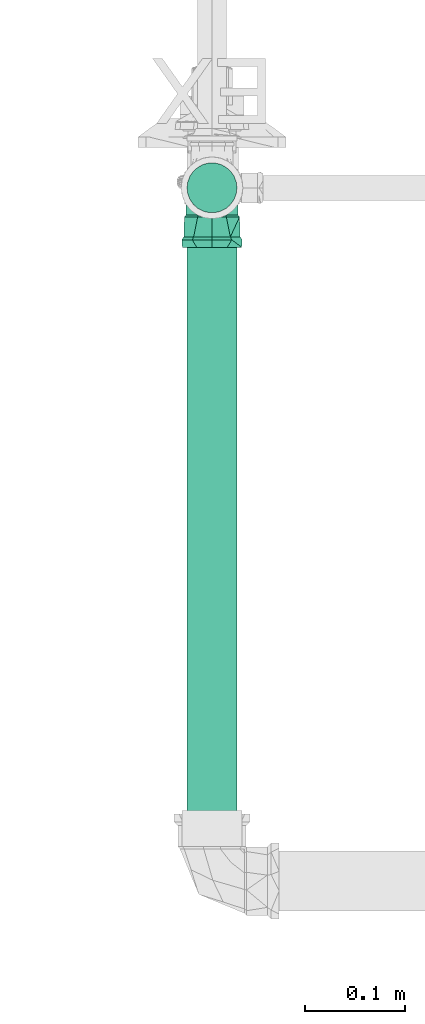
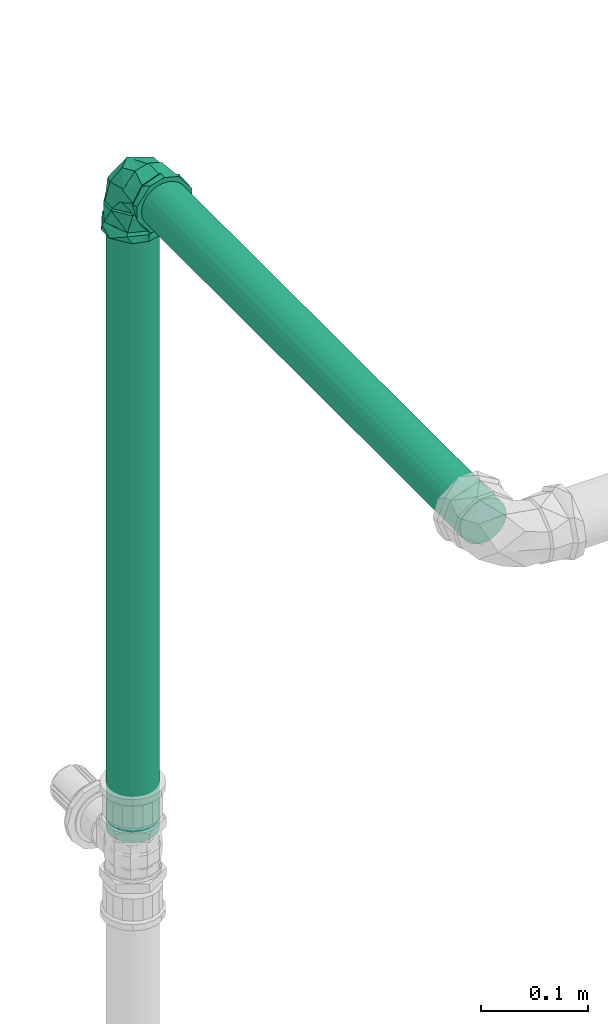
# One storey, part 242 of 589: 2 flow segments, 1 flow fitting.
"""IFC2X3 building model written with IfcOpenShell, lengths in millimetres."""

from ifc_helpers import new_model, entity, si_unit, converted_unit, derived_unit, direction, frame, frame_2d, origin, place, context, subcontext, project, spatial, circle, extrude, faceted_brep, source, transform, mapped, material, type_object, type_shapes, element, save


model = new_model("IFC2X3")

# Units and contexts
model_context = context("Model", 3, precision=0.01, world=origin(), true_north=direction((6.123031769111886e-17, 1.0)))
body_context = subcontext(model_context, "Body", "Model", "MODEL_VIEW")
ifc_project = project(units=[si_unit("LENGTHUNIT", "METRE", prefix="MILLI"), si_unit("AREAUNIT", "SQUARE_METRE"), si_unit("VOLUMEUNIT", "CUBIC_METRE"), converted_unit("PLANEANGLEUNIT", "DEGREE", entity("IfcRatioMeasure", 0.017453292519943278), si_unit("PLANEANGLEUNIT", "RADIAN"), dimensions=[0, 0, 0, 0, 0, 0, 0]), si_unit("MASSUNIT", "GRAM", prefix="KILO"), derived_unit("MASSDENSITYUNIT", [(si_unit("MASSUNIT", "GRAM", prefix="KILO"), 1), (si_unit("LENGTHUNIT", "METRE"), -3)]), derived_unit("IONCONCENTRATIONUNIT", [(si_unit("MASSUNIT", "GRAM", prefix="KILO"), 1), (si_unit("LENGTHUNIT", "METRE"), -3)]), derived_unit("MOMENTOFINERTIAUNIT", [(si_unit("LENGTHUNIT", "METRE"), 4)]), si_unit("TIMEUNIT", "SECOND"), si_unit("FREQUENCYUNIT", "HERTZ"), si_unit("THERMODYNAMICTEMPERATUREUNIT", "DEGREE_CELSIUS"), derived_unit("THERMALTRANSMITTANCEUNIT", [(si_unit("MASSUNIT", "GRAM", prefix="KILO"), 1), (si_unit("THERMODYNAMICTEMPERATUREUNIT", "KELVIN"), -1), (si_unit("TIMEUNIT", "SECOND"), -3)]), derived_unit("THERMALCONDUCTANCEUNIT", [(si_unit("MASSUNIT", "GRAM", prefix="KILO"), 1), (si_unit("THERMODYNAMICTEMPERATUREUNIT", "KELVIN"), -1), (si_unit("TIMEUNIT", "SECOND"), -3), (si_unit("LENGTHUNIT", "METRE"), 1)]), derived_unit("VOLUMETRICFLOWRATEUNIT", [(si_unit("LENGTHUNIT", "METRE"), 3), (si_unit("TIMEUNIT", "SECOND"), -1)]), derived_unit("MASSFLOWRATEUNIT", [(si_unit("MASSUNIT", "GRAM", prefix="KILO"), 1), (si_unit("TIMEUNIT", "SECOND"), -1)]), derived_unit("ROTATIONALFREQUENCYUNIT", [(si_unit("TIMEUNIT", "SECOND"), -1)]), si_unit("ELECTRICCURRENTUNIT", "AMPERE"), si_unit("ELECTRICVOLTAGEUNIT", "VOLT"), si_unit("POWERUNIT", "WATT"), si_unit("FORCEUNIT", "NEWTON", prefix="KILO"), si_unit("ILLUMINANCEUNIT", "LUX"), si_unit("LUMINOUSFLUXUNIT", "LUMEN"), si_unit("LUMINOUSINTENSITYUNIT", "CANDELA"), derived_unit("USERDEFINED", [(si_unit("MASSUNIT", "GRAM", prefix="KILO"), -1), (si_unit("LENGTHUNIT", "METRE"), -2), (si_unit("TIMEUNIT", "SECOND"), 3), (si_unit("LUMINOUSFLUXUNIT", "LUMEN"), 1)]), derived_unit("USERDEFINED", [(si_unit("MASSUNIT", "GRAM", prefix="KILO"), 1), (si_unit("TIMEUNIT", "SECOND"), -3), (si_unit("LENGTHUNIT", "METRE"), 3), (si_unit("ELECTRICCURRENTUNIT", "AMPERE"), -2)]), derived_unit("SOUNDPOWERUNIT", [(si_unit("MASSUNIT", "GRAM", prefix="KILO"), 1), (si_unit("TIMEUNIT", "SECOND"), -3), (si_unit("LENGTHUNIT", "METRE"), 2)]), derived_unit("SOUNDPRESSUREUNIT", [(si_unit("MASSUNIT", "GRAM", prefix="KILO"), 1), (si_unit("LENGTHUNIT", "METRE"), -1), (si_unit("TIMEUNIT", "SECOND"), -2)]), derived_unit("LINEARVELOCITYUNIT", [(si_unit("LENGTHUNIT", "METRE"), 1), (si_unit("TIMEUNIT", "SECOND"), -1)]), si_unit("PRESSUREUNIT", "PASCAL"), derived_unit("USERDEFINED", [(si_unit("MASSUNIT", "GRAM", prefix="KILO"), 1), (si_unit("LENGTHUNIT", "METRE"), -2), (si_unit("TIMEUNIT", "SECOND"), -2)]), derived_unit("LINEARFORCEUNIT", [(si_unit("MASSUNIT", "GRAM", prefix="KILO"), 1), (si_unit("TIMEUNIT", "SECOND"), -2)]), derived_unit("PLANARFORCEUNIT", [(si_unit("MASSUNIT", "GRAM", prefix="KILO"), 1), (si_unit("LENGTHUNIT", "METRE"), -1), (si_unit("TIMEUNIT", "SECOND"), -2)]), derived_unit("SPECIFICHEATCAPACITYUNIT", [(si_unit("THERMODYNAMICTEMPERATUREUNIT", "KELVIN"), -1), (si_unit("LENGTHUNIT", "METRE"), 2), (si_unit("TIMEUNIT", "SECOND"), -2)]), derived_unit("HEATINGVALUEUNIT", [(si_unit("LENGTHUNIT", "METRE"), 2), (si_unit("TIMEUNIT", "SECOND"), -2)]), derived_unit("VAPORPERMEABILITYUNIT", [(si_unit("LENGTHUNIT", "METRE"), -1), (si_unit("TIMEUNIT", "SECOND"), 1)]), derived_unit("DYNAMICVISCOSITYUNIT", [(si_unit("MASSUNIT", "GRAM", prefix="KILO"), 1), (si_unit("TIMEUNIT", "SECOND"), -1), (si_unit("LENGTHUNIT", "METRE"), -1)]), derived_unit("THERMALEXPANSIONCOEFFICIENTUNIT", [(si_unit("THERMODYNAMICTEMPERATUREUNIT", "KELVIN"), -1)]), derived_unit("MODULUSOFELASTICITYUNIT", [(si_unit("MASSUNIT", "GRAM", prefix="KILO"), 1), (si_unit("LENGTHUNIT", "METRE"), -1), (si_unit("TIMEUNIT", "SECOND"), -2)]), derived_unit("ISOTHERMALMOISTURECAPACITYUNIT", [(si_unit("LENGTHUNIT", "METRE"), 3), (si_unit("MASSUNIT", "GRAM", prefix="KILO"), -1)]), derived_unit("MOISTUREDIFFUSIVITYUNIT", [(si_unit("TIMEUNIT", "SECOND"), -1), (si_unit("LENGTHUNIT", "METRE"), 2)])], contexts=[model_context])

# Site, building, storey
site_placement = place(None, origin())
site = spatial("IfcSite", under=ifc_project, at=site_placement, Name="Default", CompositionType="ELEMENT")
building_placement = place(site_placement, origin())
building = spatial("IfcBuilding", under=site, at=building_placement, CompositionType="ELEMENT")
storey_placement = place(building_placement, frame((0.0, 0.0, 100.0)))
storey = spatial("IfcBuildingStorey", under=building, at=storey_placement, Name="TÉRREO", CompositionType="ELEMENT", Elevation=100.0)

# Flow segments
pipe_segment_type = type_object("IfcPipeSegmentType", Name="Tipos de tubos:PVC Marrom Soldável", PredefinedType="NOTDEFINED")
flow_segment_1_placement = place(storey_placement, origin())
element("IfcFlowSegment", 1, at=flow_segment_1_placement, inside=storey, type_object=pipe_segment_type, Name="Tipos de tubos:PVC Marrom Soldável", ObjectType="Tipos de tubos:PVC Marrom Soldável", context=body_context, shape_type="SweptSolid", body=[
    extrude(circle(Radius=25.0, at=frame_2d((1.6919798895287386e-14, 0.0), x_axis=(1.0, 0.0))), frame((-87.78535366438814, 2462.7075575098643, 2970.0), z_axis=(0.0, 1.0, 0.0), x_axis=(-1.0, 0.0, 0.0)), (0.0, 0.0, 1.0), 627.4072050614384),
])
flow_segment_2_placement = place(storey_placement, origin())
element("IfcFlowSegment", 2, at=flow_segment_2_placement, inside=storey, type_object=pipe_segment_type, Name="Tipos de tubos:PVC Marrom Soldável", ObjectType="Tipos de tubos:PVC Marrom Soldável", context=body_context, shape_type="SweptSolid", body=[
    extrude(circle(Radius=25.0, at=frame_2d((6.767919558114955e-14, 0.0), x_axis=(1.0, 0.0))), frame((-87.78535366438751, 3119.214762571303, 2221.5), z_axis=(0.0, 0.0, 1.0), x_axis=(-1.0, 0.0, 0.0)), (0.0, 0.0, 1.0), 719.4000000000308),
])

# Flow fitting
ifc_material = material(Name="PVC Marrom")
pipe_fitting_type = type_object("IfcPipeFittingType", Name="PVC Marrom Soldável_Joelho 45°_90°_Rodrigo MEP:Joelho", PredefinedType="NOTDEFINED", material=ifc_material)
shared_shape = source(origin(), body_context, "Body", "Brep", [
    faceted_brep([(-28.650000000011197, 29.100000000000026, 0.0), (-24.811627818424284, 29.100000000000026, 14.324999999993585), (-16.11339673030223, 29.100000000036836, 20.999387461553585), (-7.415165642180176, 29.10000000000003, 27.673774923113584), (7.415165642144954, 29.100000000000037, 27.67377492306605), (16.113396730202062, 29.100000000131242, 20.99938746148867), (24.811627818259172, 29.100000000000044, 14.324999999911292), (28.649999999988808, 29.100000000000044, 0.0), (24.811627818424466, 29.100000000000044, -14.32500000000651), (16.113396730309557, 29.09999999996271, -20.99938746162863), (7.41516564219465, 29.100000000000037, -27.673774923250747), (-7.4151656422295, 29.10000000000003, -27.673774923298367), (-16.11339673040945, 29.099999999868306, -20.999387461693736), (-24.811627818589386, 29.100000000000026, -14.325000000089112), (7.026937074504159, 27.400000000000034, 26.2248861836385), (-7.026937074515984, 27.400000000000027, 26.224886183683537), (-15.269763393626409, 27.400000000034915, 19.899943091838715), (-23.512589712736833, 27.400000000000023, 13.574999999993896), (-27.150000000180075, 27.400000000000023, 0.0), (-23.512589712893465, 27.400000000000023, -13.575000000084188), (-15.269763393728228, 27.39999999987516, -19.899943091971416), (-7.02693707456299, 27.400000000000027, -26.224886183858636), (7.026937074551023, 27.400000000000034, -26.224886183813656), (15.269763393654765, 27.399999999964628, -19.899943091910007), (23.51258971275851, 27.40000000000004, -13.575000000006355), (27.149999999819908, 27.40000000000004, 0.0), (23.512589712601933, 27.40000000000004, 13.574999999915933), (15.269763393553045, 27.400000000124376, 19.899943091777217)], [[[0, 1, 2, 3, 4, 5, 6, 7, 8, 9, 10, 11, 12, 13]], [[14, 15, 16, 17, 18, 19, 20, 21, 22, 23, 24, 25, 26, 27]], [[8, 7, 25, 24]], [[10, 9, 8, 24, 23, 22]], [[20, 19, 13, 12, 11, 21]], [[22, 21, 11, 10]], [[0, 13, 19, 18]], [[1, 0, 18, 17]], [[3, 2, 1, 17, 16, 15]], [[27, 26, 6, 5, 4, 14]], [[15, 14, 4, 3]], [[7, 6, 26, 25]]]),
    faceted_brep([(-29.09999999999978, -28.650000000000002, 0.0), (-29.09999999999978, -24.811627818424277, 14.32500000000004), (-29.09999999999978, -16.113396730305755, 20.99938746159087), (-29.09999999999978, -7.415165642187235, 27.673774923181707), (-29.09999999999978, 7.415165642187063, 27.6737749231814), (-29.10000000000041, 16.113396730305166, 20.999387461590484), (-29.09999999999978, 24.81162781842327, 14.324999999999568), (-29.09999999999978, 28.649999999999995, 0.0), (-29.09999999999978, 24.811627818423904, -14.324999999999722), (-29.10000000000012, 16.11339673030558, -20.999387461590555), (-29.09999999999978, 7.415165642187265, -27.67377492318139), (-29.09999999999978, -7.415165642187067, -27.67377492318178), (-29.099999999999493, -16.113396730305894, -20.99938746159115), (-29.09999999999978, -24.81162781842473, -14.325000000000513), (-27.39999999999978, 23.512589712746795, 13.574999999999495), (-27.40000000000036, 15.269763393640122, 19.89994309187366), (-27.39999999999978, 7.026937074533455, 26.22488618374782), (-27.39999999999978, -7.02693707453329, 26.224886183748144), (-27.399999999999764, -15.269763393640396, 19.89994309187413), (-27.39999999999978, -23.512589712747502, 13.575000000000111), (-27.39999999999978, -27.150000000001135, 0.0), (-27.39999999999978, -23.51258971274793, -13.575000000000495), (-27.399999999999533, -15.269763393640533, -19.899943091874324), (-27.39999999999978, -7.026937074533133, -26.224886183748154), (-27.39999999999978, 7.026937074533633, -26.22488618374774), (-27.400000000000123, 15.269763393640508, -19.899943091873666), (-27.39999999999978, 23.512589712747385, -13.574999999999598), (-27.39999999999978, 27.149999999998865, 0.0)], [[[0, 1, 2, 3, 4, 5, 6, 7, 8, 9, 10, 11, 12, 13]], [[14, 15, 16, 17, 18, 19, 20, 21, 22, 23, 24, 25, 26, 27]], [[8, 7, 27, 26]], [[10, 9, 8, 26, 25, 24]], [[22, 21, 13, 12, 11, 23]], [[24, 23, 11, 10]], [[0, 13, 21, 20]], [[1, 0, 20, 19]], [[3, 2, 1, 19, 18, 17]], [[15, 14, 6, 5, 4, 16]], [[17, 16, 4, 3]], [[7, 6, 14, 27]]]),
    faceted_brep([(-59.59999999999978, -7.958685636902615, -29.702219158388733), (-59.59999999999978, 0.0, -25.0), (-59.59999999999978, 7.958685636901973, -29.702219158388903), (-59.59999999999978, -12.500000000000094, -21.650635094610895), (-59.59999999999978, -26.630281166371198, -15.375000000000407), (-59.59999999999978, -24.148145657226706, -6.4704761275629), (-59.59999999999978, -30.749999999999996, 0.0), (-59.59999999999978, -24.148145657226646, 6.470476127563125), (-59.59999999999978, -26.630281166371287, 15.37499999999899), (-59.59999999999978, -12.499999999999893, 21.65063509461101), (-59.59999999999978, -7.958685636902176, 29.702219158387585), (-59.59999999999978, 0.0, 25.0), (-59.59999999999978, 7.958685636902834, 29.70221915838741), (-59.59999999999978, 12.499999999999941, 21.650635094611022), (-59.59999999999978, 26.630281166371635, 15.374999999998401), (-59.59999999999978, 24.14814565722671, 6.470476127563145), (-59.59999999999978, 30.750000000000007, 0.0), (-59.59999999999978, 24.14814565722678, -6.470476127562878), (-59.59999999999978, 26.63028116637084, -15.375000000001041), (-59.59999999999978, 12.500000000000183, -21.65063509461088), (-52.09999999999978, 30.750000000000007, 0.0), (-52.10000000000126, 23.555335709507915, 19.76635170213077), (-52.100000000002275, 5.338054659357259, 30.28312520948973), (-52.10000000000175, -23.557724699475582, 19.763504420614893), (-52.09999999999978, -30.749999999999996, 0.0), (-52.10000000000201, -9.109835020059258, 25.023314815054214), (-52.09999999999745, -23.557724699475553, -19.76350442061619), (-52.09999999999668, -5.34171494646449, -30.28247977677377), (-52.09999999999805, 23.5553357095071, -19.766351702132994), (-52.09999999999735, 9.106810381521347, -25.02441573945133), (-49.10000000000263, 4.971874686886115, 28.21529659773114), (-49.09999999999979, -28.650000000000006, 0.0), (-49.100000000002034, -21.95076584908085, 18.41158273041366), (-49.10000000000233, -8.489445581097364, 23.3134396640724), (-49.100000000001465, 21.94614669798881, 18.417088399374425), (-49.0999999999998, 28.649999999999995, 0.0), (-49.09999999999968, 21.946146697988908, -18.41708839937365), (-49.09999999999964, 8.483597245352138, -23.31556846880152), (-49.09999999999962, -21.95076584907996, -18.411582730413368), (-49.099999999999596, -4.978952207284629, -28.214048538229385), (-29.09999999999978, -12.500000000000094, -21.650635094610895), (-29.09999999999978, -7.415165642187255, -27.6737749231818), (-29.09999999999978, 0.0, -25.0), (-29.09999999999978, -24.811627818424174, -14.324999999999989), (-29.09999999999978, -24.148145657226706, -6.4704761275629), (-29.09999999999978, -28.650000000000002, 0.0), (-29.09999999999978, -24.148145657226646, 6.470476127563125), (-29.09999999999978, -24.811627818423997, 14.3250000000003), (-29.09999999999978, -12.499999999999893, 21.65063509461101), (-29.09999999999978, -7.41516564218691, 27.67377492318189), (-29.09999999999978, 0.0, 25.0), (-29.09999999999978, 7.415165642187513, 27.67377492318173), (-29.09999999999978, 12.499999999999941, 21.650635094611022), (-29.09999999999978, 24.811627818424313, 14.32499999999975), (-29.09999999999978, 24.14814565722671, 6.470476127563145), (-29.09999999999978, 28.650000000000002, 0.0), (-29.09999999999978, 24.14814565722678, -6.470476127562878), (-29.09999999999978, 24.81162781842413, -14.325000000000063), (-29.09999999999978, 12.500000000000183, -21.65063509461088), (-29.09999999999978, 7.415165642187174, -27.67377492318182)], [[[0, 1, 2]], [[1, 0, 3]], [[4, 3, 0]], [[3, 4, 5]], [[5, 4, 6]], [[7, 5, 6]], [[7, 6, 8]], [[8, 9, 7]], [[8, 10, 9]], [[9, 10, 11]], [[12, 11, 10]], [[13, 11, 12]], [[13, 12, 14]], [[14, 15, 13]], [[15, 14, 16]], [[15, 16, 17]], [[18, 17, 16]], [[2, 19, 18]], [[17, 18, 19]], [[19, 2, 1]], [[16, 14, 20]], [[14, 21, 20]], [[21, 14, 12]], [[21, 12, 22]], [[23, 10, 8]], [[24, 8, 6]], [[10, 23, 25, 22]], [[23, 8, 24]], [[10, 22, 12]], [[6, 4, 24]], [[4, 26, 24]], [[26, 4, 0]], [[26, 0, 27]], [[28, 2, 18]], [[20, 18, 16]], [[2, 28, 29, 27]], [[28, 18, 20]], [[2, 27, 0]], [[25, 30, 22]], [[31, 32, 24]], [[24, 32, 23]], [[23, 33, 25]], [[34, 35, 21]], [[23, 32, 33]], [[21, 22, 34]], [[20, 21, 35]], [[30, 25, 33]], [[34, 22, 30]], [[35, 36, 28]], [[28, 20, 35]], [[36, 29, 28]], [[36, 37, 29]], [[37, 27, 29]], [[38, 31, 24]], [[38, 26, 39]], [[26, 38, 24]], [[27, 37, 39]], [[39, 26, 27]], [[40, 41, 42]], [[43, 41, 40]], [[40, 44, 43]], [[44, 45, 43]], [[46, 45, 44]], [[45, 46, 47]], [[48, 47, 46]], [[47, 48, 49]], [[50, 49, 48]], [[51, 49, 50]], [[52, 51, 50]], [[51, 52, 53]], [[54, 53, 52]], [[53, 54, 55]], [[55, 54, 56]], [[55, 56, 57]], [[57, 56, 58]], [[58, 42, 59]], [[59, 57, 58]], [[41, 59, 42]], [[35, 34, 53]], [[35, 53, 55]], [[53, 34, 51]], [[34, 30, 51]], [[49, 30, 33, 32]], [[47, 32, 31]], [[32, 47, 49]], [[47, 31, 45]], [[30, 49, 51]], [[31, 38, 43]], [[31, 43, 45]], [[43, 38, 41]], [[38, 39, 41]], [[59, 39, 37, 36]], [[57, 36, 35]], [[36, 57, 59]], [[57, 35, 55]], [[39, 59, 41]], [[9, 11, 50, 48]], [[7, 9, 48, 46]], [[46, 44, 5, 7]], [[3, 5, 44, 40]], [[1, 3, 40, 42]], [[19, 1, 42, 58]], [[17, 19, 58, 56]], [[56, 54, 15, 17]], [[13, 15, 54, 52]], [[11, 13, 52, 50]]]),
    faceted_brep([(-27.39999999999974, 7.026937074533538, -26.224886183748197), (-27.399999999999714, -7.026937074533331, -26.224886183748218), (-27.399999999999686, -23.51258971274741, -13.575000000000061), (-27.399999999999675, -27.149999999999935, 0.0), (-27.399999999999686, -23.512589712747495, 13.574999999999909), (-27.399999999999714, -7.026937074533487, 26.224886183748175), (-27.39999999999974, 7.026937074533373, 26.22488618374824), (-27.399999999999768, 23.512589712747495, 13.57500000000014), (-27.39999999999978, 27.150000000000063, 0.0), (-27.399999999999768, 23.51258971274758, -13.574999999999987), (-7.026937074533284, 27.399999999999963, -26.224886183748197), (-23.512589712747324, 27.40000000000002, -13.574999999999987), (-27.14999999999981, 27.40000000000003, 0.0), (-23.51258971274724, 27.40000000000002, 13.57500000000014), (-7.026937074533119, 27.399999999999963, 26.22488618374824), (7.026937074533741, 27.39999999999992, 26.224886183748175), (23.512589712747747, 27.399999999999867, 13.574999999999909), (27.15000000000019, 27.399999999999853, 0.0), (23.512589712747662, 27.399999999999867, -13.575000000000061), (7.026937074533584, 27.39999999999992, -26.224886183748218), (-0.7421356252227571, 0.7421330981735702, 25.120395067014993), (-9.561084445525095, -17.668940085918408, 17.12121907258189), (-2.9564114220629, -17.02513409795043, 0.0), (11.17267491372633, -11.172674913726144, 0.0), (17.668938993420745, 9.561081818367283, 17.12121913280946), (-27.22322330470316, 27.223223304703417, 0.0), (-15.959081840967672, 15.95908155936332, 24.723104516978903), (17.025133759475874, 2.956410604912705, 0.0), (-9.561084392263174, -17.668940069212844, -17.12121906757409), (-15.959081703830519, 15.9590814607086, -24.723104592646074), (-0.7421353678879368, 0.7421331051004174, -25.120394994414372), (17.668938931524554, 9.561081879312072, -17.121219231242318)], [[[0, 1, 2, 3, 4, 5, 6, 7, 8, 9]], [[10, 11, 12, 13, 14, 15, 16, 17, 18, 19]], [[5, 20, 6]], [[21, 4, 22]], [[23, 21, 22]], [[15, 20, 24]], [[21, 5, 4]], [[25, 7, 13]], [[23, 24, 20]], [[25, 8, 7]], [[7, 6, 26]], [[4, 3, 22]], [[20, 21, 23]], [[27, 17, 16]], [[20, 26, 6]], [[20, 5, 21]], [[24, 27, 16]], [[7, 26, 13]], [[25, 13, 12]], [[24, 16, 15]], [[20, 14, 26]], [[14, 13, 26]], [[24, 23, 27]], [[14, 20, 15]], [[28, 23, 22]], [[28, 2, 1]], [[29, 9, 11]], [[29, 30, 0]], [[3, 2, 22]], [[30, 19, 31]], [[2, 28, 22]], [[30, 1, 0]], [[23, 28, 30]], [[30, 29, 10]], [[9, 8, 25]], [[25, 12, 11]], [[23, 31, 27]], [[1, 30, 28]], [[11, 10, 29]], [[30, 10, 19]], [[18, 17, 27]], [[23, 30, 31]], [[9, 29, 0]], [[31, 19, 18]], [[18, 27, 31]], [[11, 9, 25]]]),
    faceted_brep([(-12.499999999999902, 29.100000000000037, -21.650635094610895), (-7.415165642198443, 29.100000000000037, -27.6737749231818), (0.0, 29.100000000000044, -25.0), (-24.81162781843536, 29.100000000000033, -14.324999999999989), (-24.148145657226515, 29.100000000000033, -6.4704761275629), (-28.650000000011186, 29.100000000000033, 0.0), (-24.148145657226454, 29.100000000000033, 6.470476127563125), (-24.81162781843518, 29.100000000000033, 14.3250000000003), (-12.4999999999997, 29.100000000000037, 21.65063509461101), (-7.4151656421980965, 29.100000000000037, 27.67377492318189), (0.0, 29.100000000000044, 25.0), (7.415165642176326, 29.100000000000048, 27.67377492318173), (12.500000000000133, 29.100000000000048, 21.650635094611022), (24.811627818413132, 29.10000000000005, 14.32499999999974), (24.148145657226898, 29.10000000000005, 6.470476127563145), (28.649999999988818, 29.10000000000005, 0.0), (24.148145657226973, 29.10000000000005, -6.470476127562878), (24.811627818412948, 29.10000000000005, -14.325000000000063), (12.500000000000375, 29.100000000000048, -21.65063509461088), (7.415165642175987, 29.100000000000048, -27.67377492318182), (28.64999999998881, 49.100000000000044, 0.0), (21.94614669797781, 49.10000000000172, 18.417088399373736), (8.483597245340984, 49.100000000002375, 23.315568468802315), (-4.978952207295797, 49.100000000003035, 28.2140485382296), (-21.950765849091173, 49.10000000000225, 18.41158273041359), (-28.65000000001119, 49.10000000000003, 0.0), (-21.95076584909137, 49.09999999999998, -18.411582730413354), (-8.48944558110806, 49.09999999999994, -23.313439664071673), (4.971874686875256, 49.09999999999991, -28.215296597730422), (21.94614669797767, 49.099999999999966, -18.417088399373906), (-23.55533570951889, 52.10000000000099, 19.766351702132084), (-30.750000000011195, 52.10000000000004, 0.0), (-5.33805465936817, 52.10000000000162, 30.283125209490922), (23.557724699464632, 52.10000000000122, 19.763504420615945), (9.10983502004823, 52.10000000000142, 25.023314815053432), (30.749999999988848, 52.100000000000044, 0.0), (23.557724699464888, 52.10000000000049, -19.763504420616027), (5.3417149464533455, 52.10000000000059, -30.282479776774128), (-23.55533570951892, 52.100000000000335, -19.76635170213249), (-9.106810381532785, 52.10000000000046, -25.02441573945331), (-7.958685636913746, 59.60000000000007, -29.702219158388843), (-12.499999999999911, 59.600000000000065, -21.650635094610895), (0.0, 59.60000000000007, -25.0), (-26.63028116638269, 59.600000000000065, -15.374999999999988), (7.95868563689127, 59.60000000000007, -29.702219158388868), (-24.14814565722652, 59.600000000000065, -6.4704761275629), (-30.750000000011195, 59.60000000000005, 0.0), (-24.148145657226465, 59.600000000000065, 6.470476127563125), (-26.630281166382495, 59.600000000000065, 15.375000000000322), (-12.49999999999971, 59.600000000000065, 21.65063509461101), (-7.958685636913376, 59.60000000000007, 29.70221915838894), (0.0, 59.60000000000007, 25.0), (7.958685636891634, 59.60000000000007, 29.702219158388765), (12.500000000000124, 59.60000000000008, 21.650635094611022), (26.630281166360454, 59.60000000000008, 15.374999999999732), (24.14814565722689, 59.60000000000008, 6.470476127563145), (30.74999999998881, 59.60000000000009, 0.0), (24.148145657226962, 59.60000000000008, -6.470476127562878), (26.63028116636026, 59.60000000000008, -15.37500000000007), (12.500000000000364, 59.60000000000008, -21.65063509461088)], [[[0, 1, 2]], [[3, 1, 0]], [[0, 4, 3]], [[4, 5, 3]], [[6, 5, 4]], [[5, 6, 7]], [[8, 7, 6]], [[7, 8, 9]], [[10, 9, 8]], [[11, 9, 10]], [[12, 11, 10]], [[11, 12, 13]], [[14, 13, 12]], [[13, 14, 15]], [[15, 14, 16]], [[15, 16, 17]], [[17, 16, 18]], [[18, 2, 19]], [[19, 17, 18]], [[1, 19, 2]], [[20, 21, 13]], [[20, 13, 15]], [[13, 21, 11]], [[11, 21, 22, 23]], [[9, 23, 24]], [[7, 24, 25]], [[24, 7, 9]], [[7, 25, 5]], [[23, 9, 11]], [[25, 26, 3]], [[25, 3, 5]], [[3, 26, 1]], [[1, 26, 27, 28]], [[19, 28, 29]], [[17, 29, 20]], [[29, 17, 19]], [[17, 20, 15]], [[28, 19, 1]], [[24, 23, 30]], [[25, 24, 31]], [[31, 24, 30]], [[23, 32, 30]], [[21, 20, 33]], [[21, 33, 34]], [[22, 32, 23]], [[35, 33, 20]], [[32, 22, 34]], [[22, 21, 34]], [[20, 29, 36]], [[36, 35, 20]], [[37, 36, 29]], [[38, 39, 27]], [[29, 28, 37]], [[26, 25, 31]], [[38, 27, 26]], [[38, 26, 31]], [[28, 39, 37]], [[39, 28, 27]], [[40, 41, 42]], [[41, 40, 43]], [[42, 44, 40]], [[43, 45, 41]], [[43, 46, 45]], [[45, 46, 47]], [[48, 47, 46]], [[47, 48, 49]], [[50, 49, 48]], [[49, 50, 51]], [[51, 50, 52]], [[52, 53, 51]], [[54, 53, 52]], [[53, 54, 55]], [[56, 55, 54]], [[56, 57, 55]], [[58, 57, 56]], [[59, 57, 58]], [[59, 58, 44]], [[44, 42, 59]], [[56, 54, 35]], [[54, 33, 35]], [[33, 54, 52]], [[52, 32, 34, 33]], [[30, 50, 48]], [[31, 48, 46]], [[50, 30, 32]], [[30, 48, 31]], [[50, 32, 52]], [[46, 43, 31]], [[43, 38, 31]], [[38, 43, 40]], [[40, 37, 39, 38]], [[36, 44, 58]], [[35, 58, 56]], [[44, 36, 37]], [[36, 58, 35]], [[44, 37, 40]], [[49, 51, 10, 8]], [[47, 49, 8, 6]], [[6, 4, 45, 47]], [[41, 45, 4, 0]], [[42, 41, 0, 2]], [[59, 42, 2, 18]], [[57, 59, 18, 16]], [[16, 14, 55, 57]], [[53, 55, 14, 12]], [[51, 53, 12, 10]]]),
])
type_shapes(pipe_fitting_type, [shared_shape])
flow_fitting_placement = place(storey_placement, frame((-87.78535366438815, 3119.214762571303, 2970.0), z_axis=(1.0, 0.0, 0.0), x_axis=(0.0, 0.0, 1.0)))
element("IfcFlowFitting", 3, at=flow_fitting_placement, inside=storey, type_object=pipe_fitting_type, material=ifc_material, Name="PVC Marrom Soldável_Joelho 45°_90°_Rodrigo MEP:Joelho", ObjectType="PVC Marrom Soldável_Joelho 45°_90°_Rodrigo MEP:Joelho", context=body_context, shape_type="MappedRepresentation", body=[
    mapped(shared_shape, transform((0.0, 0.0, 0.0), scale=1.0)),
])

save(model, "model.ifc")
